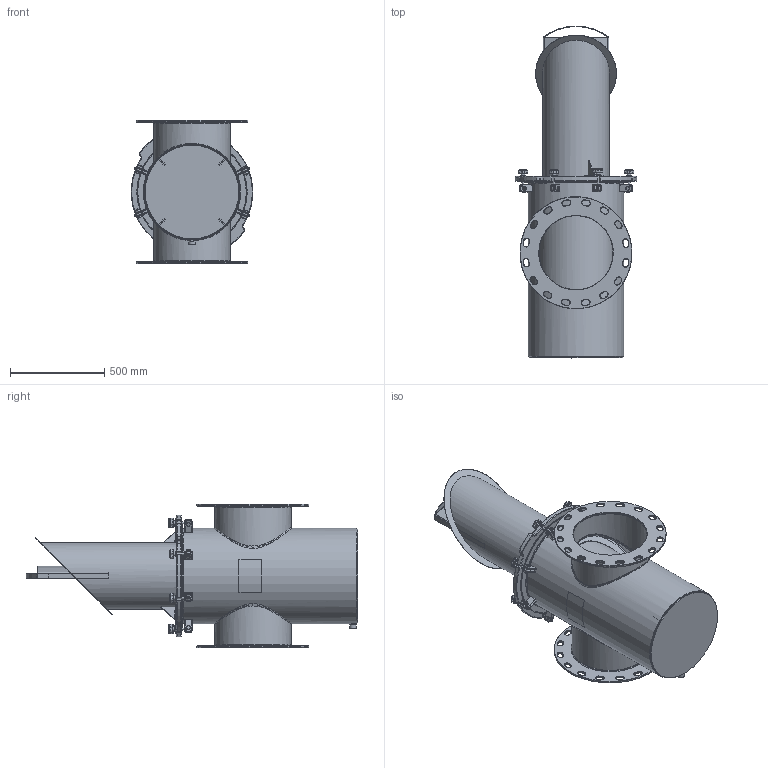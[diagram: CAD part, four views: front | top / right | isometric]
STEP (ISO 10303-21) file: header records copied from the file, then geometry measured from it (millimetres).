
FILE_DESCRIPTION(/* description */ ('20" STRAINER BODY'),/* implementation_level */ '2;1');
FILE_NAME(/* name */ 'C:\Users\r.kommineni.ext\Desktop\NB\CAD\Workspace\SS Straight\Guardian SS H&L Strainer (Inch)_CLEARANCE VOLUME\STRAINER H&L GUARDIAN 16(_DQ).stp',/* time_stamp */ '2017-06-09T13:08:08-04:00',/* author */ ('r.kommineni.ext'),/* organization */ (''),/* preprocessor_version */ 'ST-DEVELOPER v16.1',/* originating_system */ 'Autodesk Inventor 2016',/* authorisation */ '');
FILE_SCHEMA (('CONFIG_CONTROL_DESIGN'));
Length unit declared in the file: inch
Products named in the file (35): NBSSBODY16_Welds; FOR NBSSBODY16; FOR 20 DIA STRAINER BODY; FOR 20 DIA STRAINER BODY_1; 20 Body; ConcentricPipe-16(_DQ) - M; 16(_DQ); For 20 Body; ASME B16.11 Half Coupling Threaded - Class 3000 3_4 x 3_4; 20 Body_1; NBSSBODY16; 150NBCVR22R2; 150NBGSK20R1; Perforated Basket 20in; Bride (Ring) 20in; Baffle 20in; Handle 20in; Bottom Strainer 20in; BRACESTRCVR20_Welds; BRACE (BASE) FOR 20 BODY; BRACE (PROJ) FOR 20 BODY; Bumper; BRACESTRCVR20; Nut- 1_2  UNC; Bolt-1_2 x 1 1_2  UNC; EyeBolt; Washer; Knob M10; Securing Assembly with Brace; Securing Assembly without Brace; Label for 20 inch (Right); Label for 20 inch (Left); NBBSK14T316_clearance; NBBSK16T316_clearance; STRAINER H&L GUARDIAN 16(_DQ)
Assembly tree (70 placements, depth 3):
  STRAINER H&L GUARDIAN 16(_DQ)
    NBSSBODY16
      NBSSBODY16_Welds
      FOR NBSSBODY16
      FOR 20 DIA STRAINER BODY
      FOR 20 DIA STRAINER BODY_1
      20 Body  x4
      ConcentricPipe-16(_DQ) - M  x2
      16(_DQ)  x2
      For 20 Body
      ASME B16.11 Half Coupling Threaded - Class 3000 3_4 x 3_4
      20 Body_1  x16
    150NBCVR22R2
    150NBGSK20R1
    NBBSK16T316_clearance
      Perforated Basket 20in
      Bride (Ring) 20in
      Baffle 20in
      Handle 20in
      Bottom Strainer 20in
      NBBSK14T316_clearance
    BRACESTRCVR20
      BRACESTRCVR20_Welds
      BRACE (BASE) FOR 20 BODY
      BRACE (PROJ) FOR 20 BODY
      Bumper  x6
    Securing Assembly with Brace  x2
      Nut- 1_2  UNC
      Bolt-1_2 x 1 1_2  UNC
      EyeBolt
      Washer
      Knob M10
    Securing Assembly without Brace  x6
      Nut- 1_2  UNC
      Bolt-1_2 x 1 1_2  UNC
      EyeBolt
      Washer
      Knob M10
    Label for 20 inch (Right)
    Label for 20 inch (Left)
Bounding box: 645.99 x 1765.3 x 762 mm (x, y, z)
Volume: 24879625.2 mm3; surface area: 9619883 mm2
Topology: 111 solids, 114 shells, 2501 faces, 5592 edges, 3292 vertices
Faces by surface type: cylinder 900, plane 664, torus 488, cone 189, sphere 142, bspline 118
Full cylindrical faces by diameter (mm): 3.175 x11, 6.35 x1, 8.382 x8, 9.525 x16, 10.592 x8, 12.7 x8, 15.875 x16, 19 x16, 19.05 x8, 22.8 x1, 22.809 x1, 31.75 x8, 35.052 x1, 355.6 x1, 393.7 x2, 400.842 x4, 403.225 x2, 406.4 x7, 408.94 x1, 444.5 x1, 495.3 x2, 501.65 x2, 508 x2, 511.175 x1, 514.35 x1, 577.85 x1, 584.2 x1, 587.375 x1, 596.9 x2
Entity records: 41739 total; most frequent: CARTESIAN_POINT 15523, DIRECTION 5677, ORIENTED_EDGE 4751, EDGE_CURVE 2400, AXIS2_PLACEMENT_3D 2342, VERTEX_POINT 1490, EDGE_LOOP 1271, CIRCLE 1114
